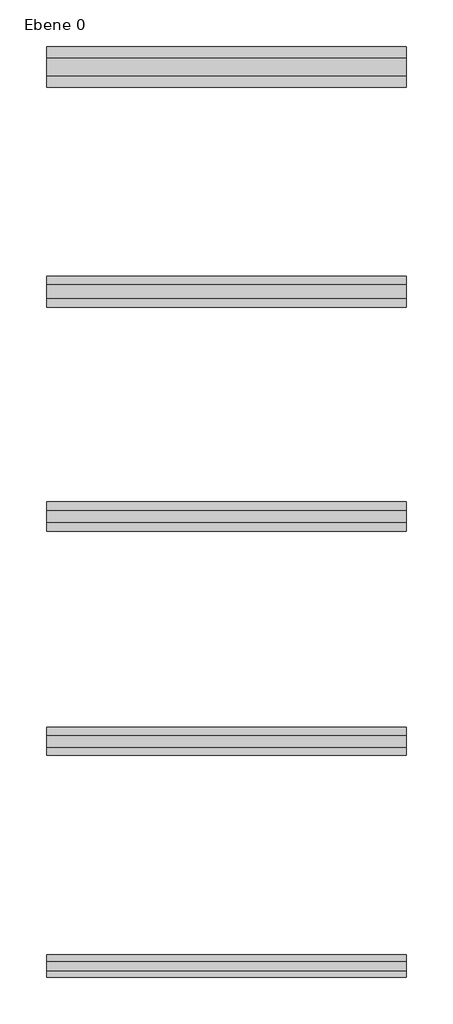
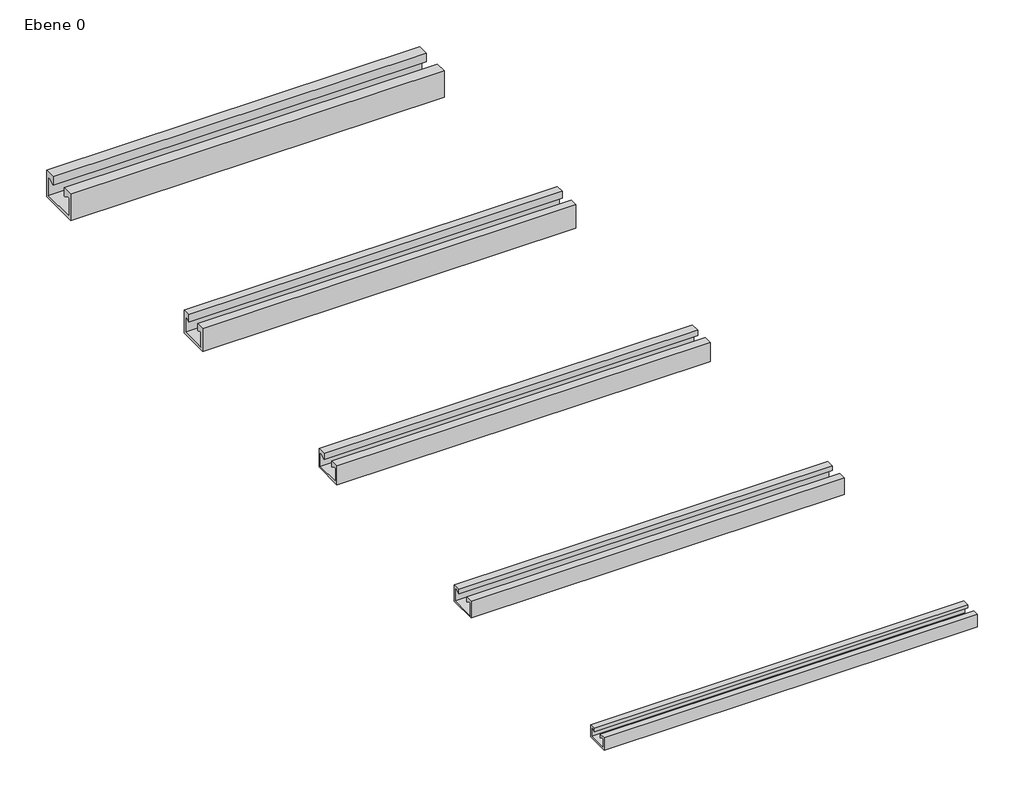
# One storey, incomplete: 5 fasteners.
"""IFC4 building model written with IfcOpenShell, lengths in millimetres."""

from ifc_helpers import new_model, si_unit, origin, place, context, project, spatial, transform, mapped, element, save
from components import fastener_806f576e, fastener_9e6933e1, fastener_8d19eec8, fastener_e8fbbafe, fastener_5b24951e

model = new_model("IFC4")

# Units and contexts
model_context = context("Model", 3, world=origin())
ifc_project = project(units=[si_unit("LENGTHUNIT", "METRE", prefix="MILLI")], contexts=[model_context])

# Site, building, storey
site = spatial("IfcSite", under=ifc_project)
building = spatial("IfcBuilding", under=site)
storey = spatial("IfcBuildingStorey", under=building, Name="Ebene 0", Elevation=0.0)

# Fasteners
placement = place(None, origin())
fastener_shape = fastener_806f576e(model_context)
element("IfcFastener", 1, ObjectType="JM W JORDAHL® Mounting Channels : JM W40/22 - L", at=placement, inside=storey, context=model_context, shape_type="MappedRepresentation", body=[
    mapped(fastener_shape, transform((138.3175485, 21.8300759, 0.0), x_axis=(1.0, 0.0, 0.0), y_axis=(0.0, 1.0, 0.0), z_axis=(0.0, 0.0, 1.0))),
])
fastener_2_shape = fastener_9e6933e1(model_context)
element("IfcFastener", 2, ObjectType="JM W JORDAHL® Mounting Channels : JM W50/30 - L", at=placement, inside=storey, context=model_context, shape_type="MappedRepresentation", body=[
    mapped(fastener_2_shape, transform((138.3175485, 421.8300759, 0.0), x_axis=(1.0, 0.0, 0.0), y_axis=(0.0, 1.0, 0.0), z_axis=(0.0, 0.0, 1.0))),
])
fastener_3_shape = fastener_8d19eec8(model_context)
element("IfcFastener", 3, ObjectType="JM W JORDAHL® Mounting Channels : JM W53/34 - L", at=placement, inside=storey, context=model_context, shape_type="MappedRepresentation", body=[
    mapped(fastener_3_shape, transform((138.3175485, 821.8300759, 0.0), x_axis=(1.0, 0.0, 0.0), y_axis=(0.0, 1.0, 0.0), z_axis=(0.0, 0.0, 1.0))),
])
fastener_4_shape = fastener_e8fbbafe(model_context)
element("IfcFastener", 4, ObjectType="JM W JORDAHL® Mounting Channels : JM W55/42 - L", at=placement, inside=storey, context=model_context, shape_type="MappedRepresentation", body=[
    mapped(fastener_4_shape, transform((138.3175485, 1221.8300759, 0.0), x_axis=(1.0, 0.0, 0.0), y_axis=(0.0, 1.0, 0.0), z_axis=(0.0, 0.0, 1.0))),
])
fastener_5_shape = fastener_5b24951e(model_context)
element("IfcFastener", 5, ObjectType="JM W JORDAHL® Mounting Channels : JM W72/48 - L", at=placement, inside=storey, context=model_context, shape_type="MappedRepresentation", body=[
    mapped(fastener_5_shape, transform((138.3175485, 1621.8300759, 0.0), x_axis=(1.0, 0.0, 0.0), y_axis=(0.0, 1.0, 0.0), z_axis=(0.0, 0.0, 1.0))),
])

save(model, "model.ifc")
